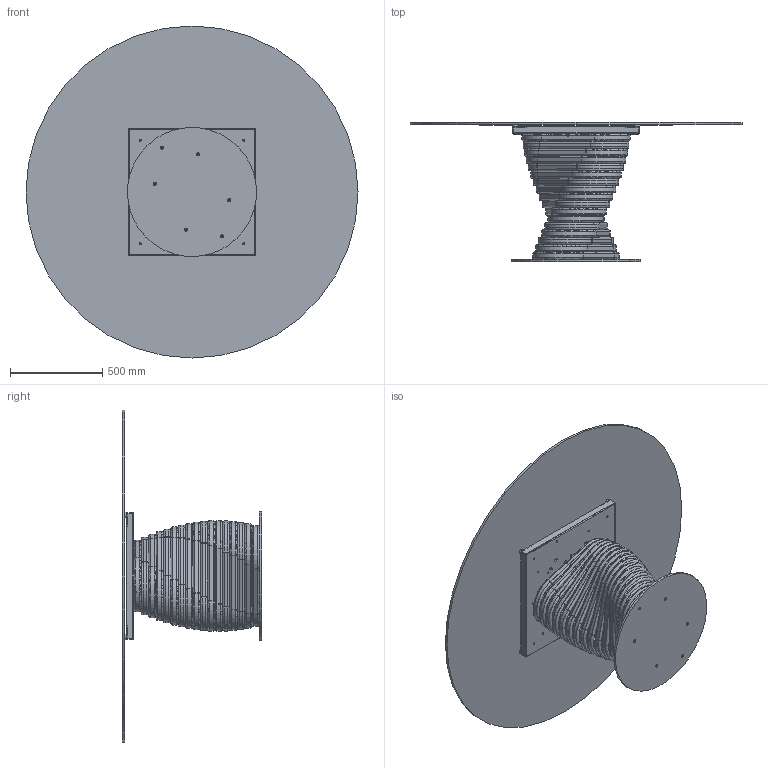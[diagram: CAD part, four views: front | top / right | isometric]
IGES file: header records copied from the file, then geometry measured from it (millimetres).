
Start section: SolidWorks IGES file using analytic representation for surfaces
Global section: file name: Y:\eforma\TECNICO\SOLIDWORKS\E-FORMA\1-TAVOLI\ROTOLO\02 parts\RO13G.IGS; native system: SolidWorks 2022; preprocessor: SolidWorks 2022; author: eforma.tech; date: 240807.150759; units: millimetre
Bounding box: 1800 x 754 x 1800 mm (x, y, z)
Volume: 42363243.5 mm3; surface area: 12042489.7 mm2
Topology: 97 solids, 97 shells, 1632 faces, 4000 edges, 2542 vertices
Faces by surface type: revolution 938, plane 694
